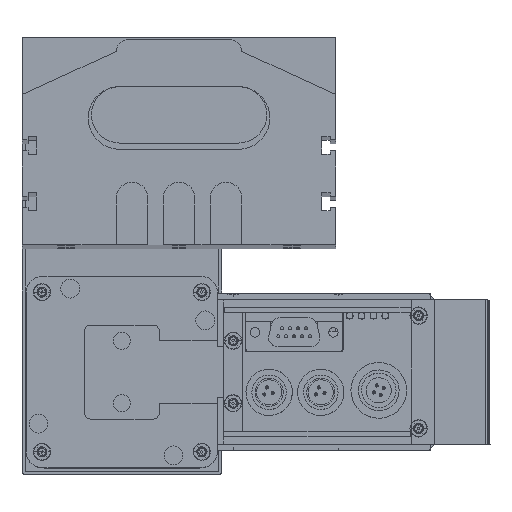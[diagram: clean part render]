
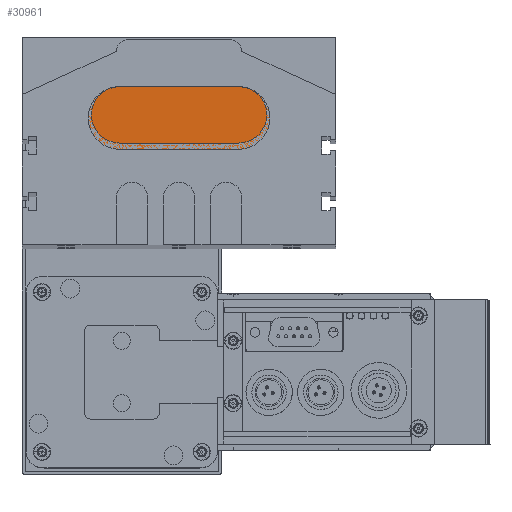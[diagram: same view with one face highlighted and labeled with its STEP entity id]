
A CAD part, top view. The second image highlights one B-rep face of the part: STEP entity #30961.
In plain terms, the highlighted planar face has unit normal (0, 0, 1).
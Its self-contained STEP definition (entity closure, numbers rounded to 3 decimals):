
#12969 = CIRCLE ( 'NONE', #13027, 10. ) ;
#12990 = CARTESIAN_POINT ( 'NONE',  ( 0., 0., 10. ) ) ;
#13019 = DIRECTION ( 'NONE',  ( 1., 0., 0. ) ) ;
#13020 = DIRECTION ( 'NONE',  ( 0., 0., 1. ) ) ;
#13021 = CARTESIAN_POINT ( 'NONE',  ( 0., 10., 10. ) ) ;
#13025 = CARTESIAN_POINT ( 'NONE',  ( -10., 10., 10. ) ) ;
#13027 = AXIS2_PLACEMENT_3D ( 'NONE', #13021, #13020, #13019 ) ;
#13056 = CARTESIAN_POINT ( 'NONE',  ( 0., 20., 10. ) ) ;
#13066 = CARTESIAN_POINT ( 'NONE',  ( 38., 20., 10. ) ) ;
#13067 = DIRECTION ( 'NONE',  ( 1., 0., 0. ) ) ;
#13068 = DIRECTION ( 'NONE',  ( 0., 0., 1. ) ) ;
#13069 = CARTESIAN_POINT ( 'NONE',  ( 0., 10., 10. ) ) ;
#13070 = AXIS2_PLACEMENT_3D ( 'NONE', #13069, #13068, #13067 ) ;
#13071 = CARTESIAN_POINT ( 'NONE',  ( 0., 10., 10. ) ) ;
#13072 = CIRCLE ( 'NONE', #13070, 10. ) ;
#13094 = CARTESIAN_POINT ( 'NONE',  ( 0., 20., 10. ) ) ;
#13095 = LINE ( 'NONE', #13094, #13139 ) ;
#13096 = DIRECTION ( 'NONE',  ( 1., 0., 0. ) ) ;
#13097 = DIRECTION ( 'NONE',  ( 0., 0., 1. ) ) ;
#13102 = CIRCLE ( 'NONE', #13150, 10. ) ;
#13103 = AXIS2_PLACEMENT_3D ( 'NONE', #13071, #13097, #13096 ) ;
#13106 = FACE_OUTER_BOUND ( 'NONE', #30970, .T. ) ;
#13107 = PLANE ( 'NONE',  #13103 ) ;
#13127 = CARTESIAN_POINT ( 'NONE',  ( 38., 0., 10. ) ) ;
#13132 = DIRECTION ( 'NONE',  ( -1., 0., 0. ) ) ;
#13139 = VECTOR ( 'NONE', #13132, 1000. ) ;
#13147 = DIRECTION ( 'NONE',  ( -1., 0., 0. ) ) ;
#13148 = DIRECTION ( 'NONE',  ( 0., 0., 1. ) ) ;
#13149 = CARTESIAN_POINT ( 'NONE',  ( 38., 10., 10. ) ) ;
#13150 = AXIS2_PLACEMENT_3D ( 'NONE', #13149, #13148, #13147 ) ;
#13175 = DIRECTION ( 'NONE',  ( 1., 0., 0. ) ) ;
#13176 = VECTOR ( 'NONE', #13175, 1000. ) ;
#13177 = CARTESIAN_POINT ( 'NONE',  ( 0., 0., 10. ) ) ;
#13178 = LINE ( 'NONE', #13177, #13176 ) ;
#30843 = EDGE_CURVE ( 'NONE', #30875, #30876, #12969, .T. ) ;
#30875 = VERTEX_POINT ( 'NONE', #13025 ) ;
#30876 = VERTEX_POINT ( 'NONE', #12990 ) ;
#30913 = ORIENTED_EDGE ( 'NONE', *, *, #30937, .T. ) ;
#30915 = VERTEX_POINT ( 'NONE', #13066 ) ;
#30920 = VERTEX_POINT ( 'NONE', #13056 ) ;
#30937 = EDGE_CURVE ( 'NONE', #30920, #30875, #13072, .T. ) ;
#30959 = ORIENTED_EDGE ( 'NONE', *, *, #30843, .T. ) ;
#30961 = ADVANCED_FACE ( 'NONE', ( #13106 ), #13107, .T. ) ;
#30963 = ORIENTED_EDGE ( 'NONE', *, *, #30987, .T. ) ;
#30970 = EDGE_LOOP ( 'NONE', ( #30913, #30959, #30963, #30978, #31017 ) ) ;
#30972 = EDGE_CURVE ( 'NONE', #30981, #30915, #13102, .T. ) ;
#30976 = EDGE_CURVE ( 'NONE', #30915, #30920, #13095, .T. ) ;
#30978 = ORIENTED_EDGE ( 'NONE', *, *, #30972, .T. ) ;
#30981 = VERTEX_POINT ( 'NONE', #13127 ) ;
#30987 = EDGE_CURVE ( 'NONE', #30876, #30981, #13178, .T. ) ;
#31017 = ORIENTED_EDGE ( 'NONE', *, *, #30976, .T. ) ;
